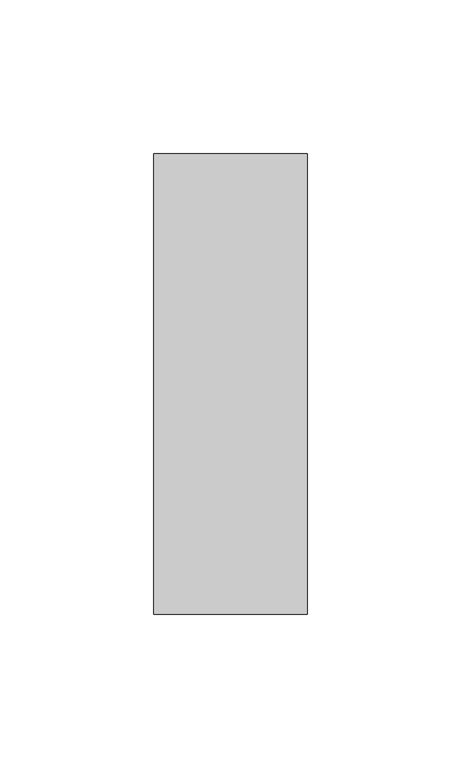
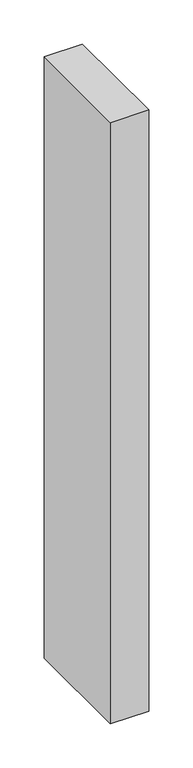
"""IFC4 building model written with IfcOpenShell, lengths in millimetres: member geometry, Прямоугольный импост : 50х150мм."""

from ifc_helpers import new_model, si_unit, frame, origin, place, context, project, spatial, polyline, outline, extrude, source, transform, mapped, element, save


def member_111bacfa(model_context):
    return source(origin(), model_context, "Body", "SweptSolid", [
        extrude(outline(polyline([(0.0, 75.0), (0.0, -75.0), (-50.0, -75.0), (-50.0, 75.0), (0.0, 75.0)])), frame((0.0, 0.0, -831.8168429), z_axis=(0.0, 0.0, 1.0), x_axis=(1.0, 0.0, 0.0)), (0.0, 0.0, 1.0), 831.8168429),
    ])


if __name__ == "__main__":
    model = new_model("IFC4")
    model_context = context("Model", 3, world=origin())
    ifc_project = project(units=[si_unit("LENGTHUNIT", "METRE", prefix="MILLI")], contexts=[model_context])
    site = spatial("IfcSite", under=ifc_project)
    building = spatial("IfcBuilding", under=site)
    placement = place(None, origin())
    member_shape = member_111bacfa(model_context)
    element("IfcMember", 1, ObjectType="Прямоугольный импост : 50х150мм", at=placement, inside=building, context=model_context, shape_type="MappedRepresentation", body=[
        mapped(member_shape, transform((0.0, 0.0, 0.0), x_axis=(1.0, 0.0, 0.0), y_axis=(0.0, 1.0, 0.0), z_axis=(0.0, 0.0, 1.0))),
    ])
    save(model, "model.ifc")
